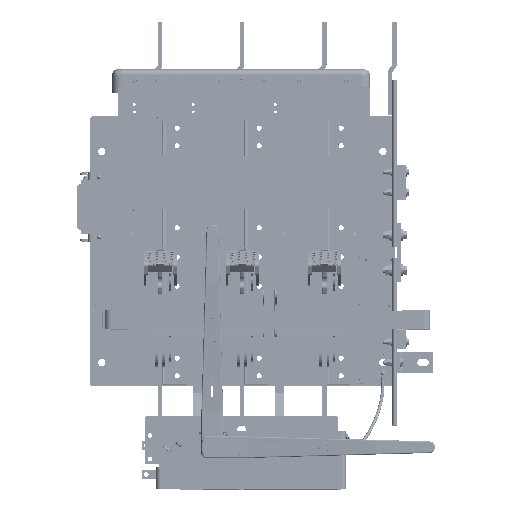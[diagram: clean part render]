
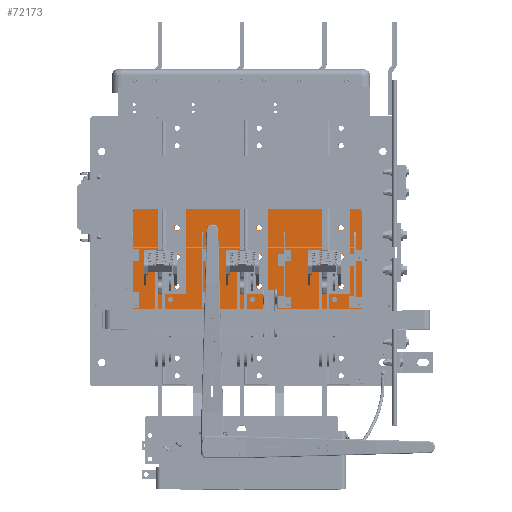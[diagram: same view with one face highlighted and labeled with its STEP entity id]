
A CAD part, top view. The second image highlights one B-rep face of the part: STEP entity #72173.
In plain terms, the highlighted planar face has unit normal (0, 0, 1).
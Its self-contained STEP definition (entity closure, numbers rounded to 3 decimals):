
#3105=FACE_BOUND('',#11421,.T.);
#3106=FACE_BOUND('',#11422,.T.);
#3107=FACE_BOUND('',#11423,.T.);
#3108=FACE_BOUND('',#11424,.T.);
#3109=FACE_BOUND('',#11425,.T.);
#3110=FACE_BOUND('',#11426,.T.);
#3111=FACE_BOUND('',#11427,.T.);
#3112=FACE_BOUND('',#11428,.T.);
#3113=FACE_BOUND('',#11429,.T.);
#3114=FACE_BOUND('',#11430,.T.);
#3115=FACE_BOUND('',#11431,.T.);
#3116=FACE_BOUND('',#11432,.T.);
#3117=FACE_BOUND('',#11433,.T.);
#3118=FACE_BOUND('',#11434,.T.);
#3119=FACE_BOUND('',#11435,.T.);
#3120=FACE_BOUND('',#11436,.T.);
#3121=FACE_BOUND('',#11437,.T.);
#4619=PLANE('',#78826);
#7191=FACE_OUTER_BOUND('',#11420,.T.);
#11420=EDGE_LOOP('',(#53757,#53758,#53759,#53760,#53761,#53762));
#11421=EDGE_LOOP('',(#53763));
#11422=EDGE_LOOP('',(#53764));
#11423=EDGE_LOOP('',(#53765));
#11424=EDGE_LOOP('',(#53766));
#11425=EDGE_LOOP('',(#53767));
#11426=EDGE_LOOP('',(#53768));
#11427=EDGE_LOOP('',(#53769));
#11428=EDGE_LOOP('',(#53770));
#11429=EDGE_LOOP('',(#53771));
#11430=EDGE_LOOP('',(#53772));
#11431=EDGE_LOOP('',(#53773));
#11432=EDGE_LOOP('',(#53774));
#11433=EDGE_LOOP('',(#53775));
#11434=EDGE_LOOP('',(#53776));
#11435=EDGE_LOOP('',(#53777));
#11436=EDGE_LOOP('',(#53778));
#11437=EDGE_LOOP('',(#53779));
#16385=CIRCLE('',#78609,0.07);
#16387=CIRCLE('',#78613,0.07);
#16389=CIRCLE('',#78617,0.07);
#16391=CIRCLE('',#78621,0.07);
#16393=CIRCLE('',#78625,0.07);
#16395=CIRCLE('',#78629,0.07);
#16397=CIRCLE('',#78633,0.07);
#16399=CIRCLE('',#78637,0.07);
#16403=CIRCLE('',#78645,0.219);
#16404=CIRCLE('',#78647,0.219);
#16405=CIRCLE('',#78649,0.219);
#16406=CIRCLE('',#78651,0.219);
#16407=CIRCLE('',#78653,0.219);
#16408=CIRCLE('',#78655,0.219);
#16409=CIRCLE('',#78657,0.219);
#16410=CIRCLE('',#78659,0.219);
#16411=CIRCLE('',#78661,0.219);
#16490=CIRCLE('',#78820,0.237);
#16491=CIRCLE('',#78825,0.237);
#20226=LINE('',#110992,#26482);
#20230=LINE('',#111001,#26486);
#20232=LINE('',#111005,#26488);
#20234=LINE('',#111009,#26490);
#26482=VECTOR('',#89659,0.394);
#26486=VECTOR('',#89669,0.394);
#26488=VECTOR('',#89673,0.394);
#26490=VECTOR('',#89677,0.394);
#32932=VERTEX_POINT('',#110533);
#32934=VERTEX_POINT('',#110540);
#32936=VERTEX_POINT('',#110547);
#32938=VERTEX_POINT('',#110554);
#32940=VERTEX_POINT('',#110561);
#32942=VERTEX_POINT('',#110568);
#32944=VERTEX_POINT('',#110575);
#32946=VERTEX_POINT('',#110582);
#32950=VERTEX_POINT('',#110596);
#32951=VERTEX_POINT('',#110600);
#32952=VERTEX_POINT('',#110604);
#32953=VERTEX_POINT('',#110608);
#32954=VERTEX_POINT('',#110612);
#32955=VERTEX_POINT('',#110616);
#32956=VERTEX_POINT('',#110620);
#32957=VERTEX_POINT('',#110624);
#32958=VERTEX_POINT('',#110628);
#33070=VERTEX_POINT('',#110990);
#33071=VERTEX_POINT('',#110991);
#33072=VERTEX_POINT('',#110996);
#33073=VERTEX_POINT('',#111000);
#33074=VERTEX_POINT('',#111004);
#33075=VERTEX_POINT('',#111008);
#40544=EDGE_CURVE('',#32932,#32932,#16385,.T.);
#40547=EDGE_CURVE('',#32934,#32934,#16387,.T.);
#40550=EDGE_CURVE('',#32936,#32936,#16389,.T.);
#40553=EDGE_CURVE('',#32938,#32938,#16391,.T.);
#40556=EDGE_CURVE('',#32940,#32940,#16393,.T.);
#40559=EDGE_CURVE('',#32942,#32942,#16395,.T.);
#40562=EDGE_CURVE('',#32944,#32944,#16397,.T.);
#40565=EDGE_CURVE('',#32946,#32946,#16399,.T.);
#40571=EDGE_CURVE('',#32950,#32950,#16403,.T.);
#40573=EDGE_CURVE('',#32951,#32951,#16404,.T.);
#40575=EDGE_CURVE('',#32952,#32952,#16405,.T.);
#40577=EDGE_CURVE('',#32953,#32953,#16406,.T.);
#40579=EDGE_CURVE('',#32954,#32954,#16407,.T.);
#40581=EDGE_CURVE('',#32955,#32955,#16408,.T.);
#40583=EDGE_CURVE('',#32956,#32956,#16409,.T.);
#40585=EDGE_CURVE('',#32957,#32957,#16410,.T.);
#40587=EDGE_CURVE('',#32958,#32958,#16411,.T.);
#40758=EDGE_CURVE('',#33070,#33071,#20226,.T.);
#40761=EDGE_CURVE('',#33071,#33072,#16490,.T.);
#40763=EDGE_CURVE('',#33072,#33073,#20230,.T.);
#40765=EDGE_CURVE('',#33073,#33074,#20232,.T.);
#40767=EDGE_CURVE('',#33074,#33075,#20234,.T.);
#40769=EDGE_CURVE('',#33075,#33070,#16491,.T.);
#53757=ORIENTED_EDGE('',*,*,#40758,.F.);
#53758=ORIENTED_EDGE('',*,*,#40769,.F.);
#53759=ORIENTED_EDGE('',*,*,#40767,.F.);
#53760=ORIENTED_EDGE('',*,*,#40765,.F.);
#53761=ORIENTED_EDGE('',*,*,#40763,.F.);
#53762=ORIENTED_EDGE('',*,*,#40761,.F.);
#53763=ORIENTED_EDGE('',*,*,#40544,.T.);
#53764=ORIENTED_EDGE('',*,*,#40547,.T.);
#53765=ORIENTED_EDGE('',*,*,#40550,.T.);
#53766=ORIENTED_EDGE('',*,*,#40553,.T.);
#53767=ORIENTED_EDGE('',*,*,#40556,.T.);
#53768=ORIENTED_EDGE('',*,*,#40559,.T.);
#53769=ORIENTED_EDGE('',*,*,#40562,.T.);
#53770=ORIENTED_EDGE('',*,*,#40565,.T.);
#53771=ORIENTED_EDGE('',*,*,#40571,.T.);
#53772=ORIENTED_EDGE('',*,*,#40573,.T.);
#53773=ORIENTED_EDGE('',*,*,#40575,.T.);
#53774=ORIENTED_EDGE('',*,*,#40577,.T.);
#53775=ORIENTED_EDGE('',*,*,#40579,.T.);
#53776=ORIENTED_EDGE('',*,*,#40581,.T.);
#53777=ORIENTED_EDGE('',*,*,#40583,.T.);
#53778=ORIENTED_EDGE('',*,*,#40585,.T.);
#53779=ORIENTED_EDGE('',*,*,#40587,.T.);
#72173=ADVANCED_FACE('',(#7191,#3105,#3106,#3107,#3108,#3109,#3110,#3111,
#3112,#3113,#3114,#3115,#3116,#3117,#3118,#3119,#3120,#3121),#4619,.T.);
#78609=AXIS2_PLACEMENT_3D('',#110534,#89130,#89131);
#78613=AXIS2_PLACEMENT_3D('',#110541,#89139,#89140);
#78617=AXIS2_PLACEMENT_3D('',#110548,#89148,#89149);
#78621=AXIS2_PLACEMENT_3D('',#110555,#89157,#89158);
#78625=AXIS2_PLACEMENT_3D('',#110562,#89166,#89167);
#78629=AXIS2_PLACEMENT_3D('',#110569,#89175,#89176);
#78633=AXIS2_PLACEMENT_3D('',#110576,#89184,#89185);
#78637=AXIS2_PLACEMENT_3D('',#110583,#89193,#89194);
#78645=AXIS2_PLACEMENT_3D('',#110597,#89211,#89212);
#78647=AXIS2_PLACEMENT_3D('',#110601,#89216,#89217);
#78649=AXIS2_PLACEMENT_3D('',#110605,#89221,#89222);
#78651=AXIS2_PLACEMENT_3D('',#110609,#89226,#89227);
#78653=AXIS2_PLACEMENT_3D('',#110613,#89231,#89232);
#78655=AXIS2_PLACEMENT_3D('',#110617,#89236,#89237);
#78657=AXIS2_PLACEMENT_3D('',#110621,#89241,#89242);
#78659=AXIS2_PLACEMENT_3D('',#110625,#89246,#89247);
#78661=AXIS2_PLACEMENT_3D('',#110629,#89251,#89252);
#78820=AXIS2_PLACEMENT_3D('',#110997,#89664,#89665);
#78825=AXIS2_PLACEMENT_3D('',#111012,#89681,#89682);
#78826=AXIS2_PLACEMENT_3D('',#111013,#89683,#89684);
#89130=DIRECTION('center_axis',(0.,0.,-1.));
#89131=DIRECTION('ref_axis',(-1.,0.,0.));
#89139=DIRECTION('center_axis',(0.,0.,-1.));
#89140=DIRECTION('ref_axis',(-1.,0.,0.));
#89148=DIRECTION('center_axis',(0.,0.,-1.));
#89149=DIRECTION('ref_axis',(-1.,0.,0.));
#89157=DIRECTION('center_axis',(0.,0.,-1.));
#89158=DIRECTION('ref_axis',(-1.,0.,0.));
#89166=DIRECTION('center_axis',(0.,0.,-1.));
#89167=DIRECTION('ref_axis',(-1.,0.,0.));
#89175=DIRECTION('center_axis',(0.,0.,-1.));
#89176=DIRECTION('ref_axis',(-1.,0.,0.));
#89184=DIRECTION('center_axis',(0.,0.,-1.));
#89185=DIRECTION('ref_axis',(-1.,0.,0.));
#89193=DIRECTION('center_axis',(0.,0.,-1.));
#89194=DIRECTION('ref_axis',(-1.,0.,0.));
#89211=DIRECTION('center_axis',(0.,0.,-1.));
#89212=DIRECTION('ref_axis',(-1.,0.,0.));
#89216=DIRECTION('center_axis',(0.,0.,-1.));
#89217=DIRECTION('ref_axis',(-1.,0.,0.));
#89221=DIRECTION('center_axis',(0.,0.,-1.));
#89222=DIRECTION('ref_axis',(-1.,0.,0.));
#89226=DIRECTION('center_axis',(0.,0.,-1.));
#89227=DIRECTION('ref_axis',(-1.,0.,0.));
#89231=DIRECTION('center_axis',(0.,0.,-1.));
#89232=DIRECTION('ref_axis',(-1.,0.,0.));
#89236=DIRECTION('center_axis',(0.,0.,-1.));
#89237=DIRECTION('ref_axis',(-1.,0.,0.));
#89241=DIRECTION('center_axis',(0.,0.,-1.));
#89242=DIRECTION('ref_axis',(-1.,0.,0.));
#89246=DIRECTION('center_axis',(0.,0.,-1.));
#89247=DIRECTION('ref_axis',(-1.,0.,0.));
#89251=DIRECTION('center_axis',(0.,0.,-1.));
#89252=DIRECTION('ref_axis',(-1.,0.,0.));
#89659=DIRECTION('',(1.,0.,0.));
#89664=DIRECTION('center_axis',(0.,0.,-1.));
#89665=DIRECTION('ref_axis',(-1.,0.,0.));
#89669=DIRECTION('',(0.,-1.,0.));
#89673=DIRECTION('',(-1.,0.,0.));
#89677=DIRECTION('',(0.,1.,0.));
#89681=DIRECTION('center_axis',(0.,0.,-1.));
#89682=DIRECTION('ref_axis',(0.,-1.,0.));
#89683=DIRECTION('center_axis',(0.,0.,1.));
#89684=DIRECTION('ref_axis',(1.,0.,0.));
#110533=CARTESIAN_POINT('',(38.758,-12.063,0.5));
#110534=CARTESIAN_POINT('Origin',(38.688,-12.063,0.5));
#110540=CARTESIAN_POINT('',(45.758,-12.063,0.5));
#110541=CARTESIAN_POINT('Origin',(45.688,-12.063,0.5));
#110547=CARTESIAN_POINT('',(51.758,-12.063,0.5));
#110548=CARTESIAN_POINT('Origin',(51.688,-12.063,0.5));
#110554=CARTESIAN_POINT('',(51.758,-16.063,0.5));
#110555=CARTESIAN_POINT('Origin',(51.688,-16.063,0.5));
#110561=CARTESIAN_POINT('',(45.758,-16.063,0.5));
#110562=CARTESIAN_POINT('Origin',(45.688,-16.063,0.5));
#110568=CARTESIAN_POINT('',(38.758,-16.063,0.5));
#110569=CARTESIAN_POINT('Origin',(38.688,-16.063,0.5));
#110575=CARTESIAN_POINT('',(32.758,-16.063,0.5));
#110576=CARTESIAN_POINT('Origin',(32.688,-16.063,0.5));
#110582=CARTESIAN_POINT('',(32.758,-12.063,0.5));
#110583=CARTESIAN_POINT('Origin',(32.688,-12.063,0.5));
#110596=CARTESIAN_POINT('',(50.406,-9.5,0.5));
#110597=CARTESIAN_POINT('Origin',(50.188,-9.5,0.5));
#110600=CARTESIAN_POINT('',(50.406,-12.,0.5));
#110601=CARTESIAN_POINT('Origin',(50.188,-12.,0.5));
#110604=CARTESIAN_POINT('',(50.406,-14.5,0.5));
#110605=CARTESIAN_POINT('Origin',(50.188,-14.5,0.5));
#110608=CARTESIAN_POINT('',(43.406,-9.5,0.5));
#110609=CARTESIAN_POINT('Origin',(43.188,-9.5,0.5));
#110612=CARTESIAN_POINT('',(43.406,-12.,0.5));
#110613=CARTESIAN_POINT('Origin',(43.188,-12.,0.5));
#110616=CARTESIAN_POINT('',(43.406,-14.5,0.5));
#110617=CARTESIAN_POINT('Origin',(43.188,-14.5,0.5));
#110620=CARTESIAN_POINT('',(36.406,-14.5,0.5));
#110621=CARTESIAN_POINT('Origin',(36.188,-14.5,0.5));
#110624=CARTESIAN_POINT('',(36.406,-12.,0.5));
#110625=CARTESIAN_POINT('Origin',(36.188,-12.,0.5));
#110628=CARTESIAN_POINT('',(36.406,-9.5,0.5));
#110629=CARTESIAN_POINT('Origin',(36.188,-9.5,0.5));
#110990=CARTESIAN_POINT('',(32.688,-7.888,0.5));
#110991=CARTESIAN_POINT('',(51.688,-7.888,0.5));
#110992=CARTESIAN_POINT('',(32.688,-7.888,0.5));
#110996=CARTESIAN_POINT('',(51.924,-8.125,0.5));
#110997=CARTESIAN_POINT('Origin',(51.688,-8.125,0.5));
#111000=CARTESIAN_POINT('',(51.924,-16.461,0.5));
#111001=CARTESIAN_POINT('',(51.924,-8.125,0.5));
#111004=CARTESIAN_POINT('',(32.451,-16.461,0.5));
#111005=CARTESIAN_POINT('',(51.938,-16.461,0.5));
#111008=CARTESIAN_POINT('',(32.451,-8.125,0.5));
#111009=CARTESIAN_POINT('',(32.451,-16.474,0.5));
#111012=CARTESIAN_POINT('Origin',(32.688,-8.125,0.5));
#111013=CARTESIAN_POINT('Origin',(42.188,-12.191,0.5));
